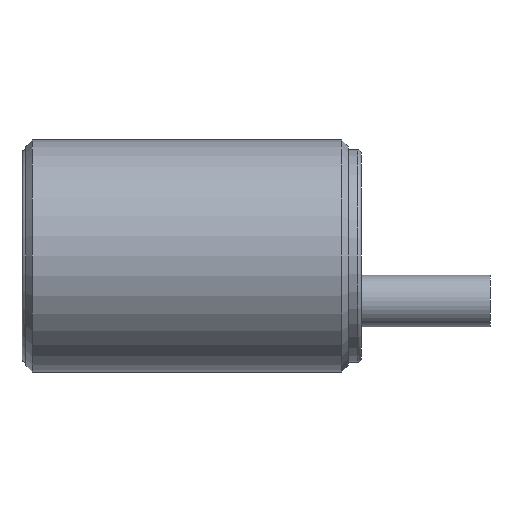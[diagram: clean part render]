
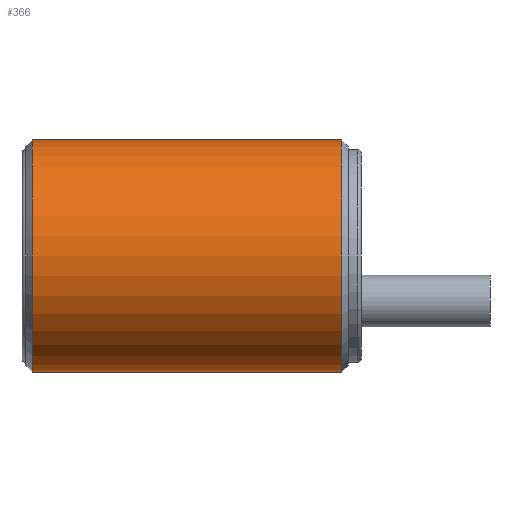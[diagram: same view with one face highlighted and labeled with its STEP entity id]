
A CAD part, front view. The second image highlights one B-rep face of the part: STEP entity #366.
In plain terms, the highlighted cylindrical face has radius 9 mm (diameter 18 mm), a full revolution.
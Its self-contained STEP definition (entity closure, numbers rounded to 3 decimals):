
#332=CARTESIAN_POINT('',(65.49,0.0,9.));
#333=VERTEX_POINT('',#332);
#334=CARTESIAN_POINT('',(65.49,0.0,0.));
#335=DIRECTION('',(-1.0,0.0,0.0));
#336=DIRECTION('',(0.0,0.0,1.0));
#337=AXIS2_PLACEMENT_3D('',#334,#335,#336);
#338=CIRCLE('',#337,9.);
#339=EDGE_CURVE('',#333,#333,#338,.T.);
#347=CARTESIAN_POINT('',(53.49,0.0,0.));
#348=DIRECTION('',(-1.0,0.0,0.));
#349=DIRECTION('',(0.0,0.0,1.0));
#350=AXIS2_PLACEMENT_3D('',#347,#348,#349);
#351=CYLINDRICAL_SURFACE('',#350,9.);
#352=CARTESIAN_POINT('',(41.49,0.0,9.));
#353=VERTEX_POINT('',#352);
#354=CARTESIAN_POINT('',(41.49,0.0,0.));
#355=DIRECTION('',(-1.0,0.0,0.0));
#356=DIRECTION('',(0.0,0.0,1.0));
#357=AXIS2_PLACEMENT_3D('',#354,#355,#356);
#358=CIRCLE('',#357,9.);
#359=EDGE_CURVE('',#353,#353,#358,.T.);
#360=ORIENTED_EDGE('',*,*,#359,.F.);
#361=EDGE_LOOP('',(#360));
#362=FACE_OUTER_BOUND('',#361,.T.);
#363=ORIENTED_EDGE('',*,*,#339,.T.);
#364=EDGE_LOOP('',(#363));
#365=FACE_BOUND('',#364,.T.);
#366=ADVANCED_FACE('',(#362,#365),#351,.T.);
